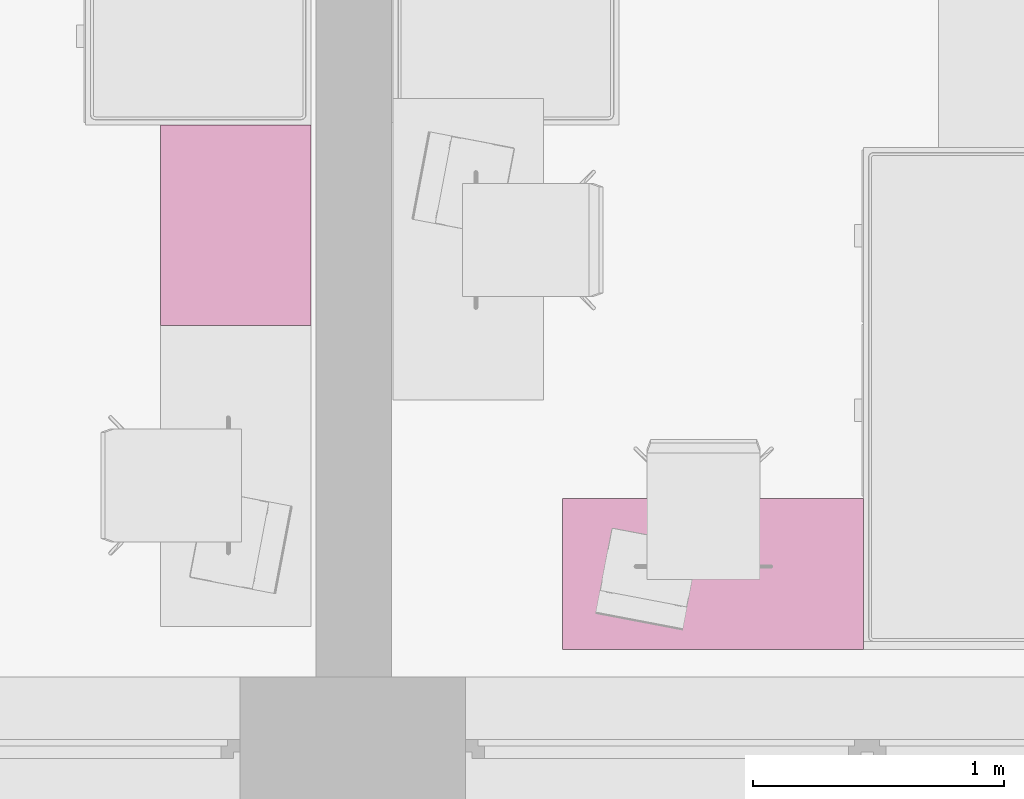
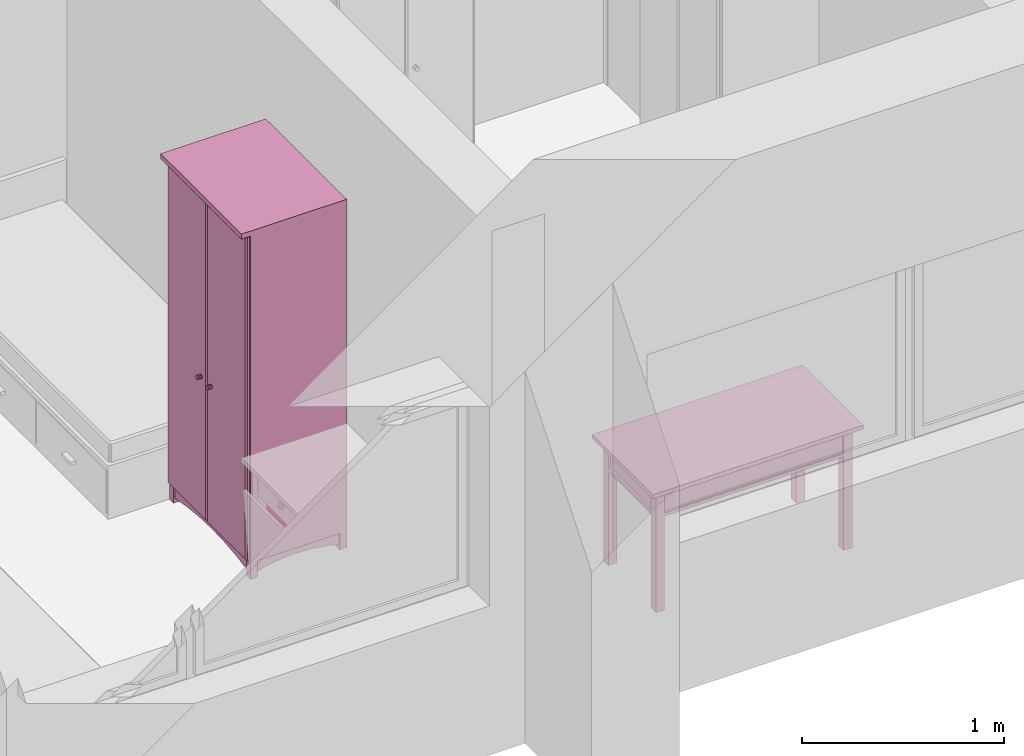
# One storey, part 127 of 172: 2 furnishings.
"""IFC2X3 building model written with IfcOpenShell, lengths in millimetres."""

import ifcopenshell
import ifcopenshell.guid

model = None  # the IFC model being written
_history = None  # IfcOwnerHistory: only IFC2X3 demands one
_inside = {}  # id of a spatial element -> (the spatial element, [elements in it])
_under = {}  # id of a project, library or spatial element -> (it, [spatial elements below it])
_declared = {}  # id of a project -> (the project, [libraries it declares])
_typed = {}  # id of a type object -> (the type object, [elements of that type])
_made_of = {}  # id of a material, layer set ... -> (it, [elements and type objects made of it])


def new_model(schema):
    """Start an empty IFC model of exactly this schema.

    Asked for "IFC4X3", IfcOpenShell would pick the latest addendum, in which some entities
    have other attributes; the version numbers below select the first issue.
    IFC2X3 requires an IfcOwnerHistory on every rooted entity: one is made here for all.
    """
    global model, _history
    if schema == "IFC4X3":
        model = ifcopenshell.file(schema_version=(4, 3, 0, 0))
    else:
        model = ifcopenshell.file(schema=schema)
    _inside.clear()
    _under.clear()
    _declared.clear()
    _typed.clear()
    _made_of.clear()
    _history = None
    if model.schema == "IFC2X3":
        org = make("IfcOrganization", Name="unknown")
        user = make(
            "IfcPersonAndOrganization",
            ThePerson=make("IfcPerson", FamilyName="unknown"),
            TheOrganization=org,
        )
        app = make(
            "IfcApplication",
            ApplicationDeveloper=org,
            Version="unknown",
            ApplicationFullName="unknown",
            ApplicationIdentifier="unknown",
        )
        _history = make(
            "IfcOwnerHistory",
            OwningUser=user,
            OwningApplication=app,
            ChangeAction="ADDED",
            CreationDate=0,
        )
    return model


def make(cls, **values):
    """One entity of the class cls with the attributes given. An attribute that is None is left unset."""
    return model.create_entity(
        cls, **{name: value for name, value in values.items() if value is not None}
    )


def entity(cls, *values):
    """Any entity or typed value of the class cls, its attributes in the order of the schema. None: left unset."""
    e = model.create_entity(cls)
    for i, value in enumerate(values):
        if value is not None:
            e[i] = value
    return e


def rooted(cls, **values):
    """An entity with a GlobalId (a new one), such as an element, a storey or a relation."""
    return make(cls, GlobalId=ifcopenshell.guid.new(), OwnerHistory=_history, **values)


def si_unit(unit_type, name, prefix=None):
    """IfcSIUnit, for example si_unit("LENGTHUNIT", "METRE", prefix="MILLI")."""
    return make("IfcSIUnit", UnitType=unit_type, Prefix=prefix, Name=name)


def converted_unit(unit_type, name, factor, base, dimensions=None, offset=None):
    """IfcConversionBasedUnit, such as the inch: factor (a typed value) times the base unit."""
    return make(
        "IfcConversionBasedUnit"
        if offset is None
        else "IfcConversionBasedUnitWithOffset",
        ConversionOffset=offset,
        Dimensions=None
        if dimensions is None
        else entity("IfcDimensionalExponents", *dimensions),
        UnitType=unit_type,
        Name=name,
        ConversionFactor=make(
            "IfcMeasureWithUnit", ValueComponent=factor, UnitComponent=base
        ),
    )


def money_unit(currency):
    """IfcMonetaryUnit."""
    return make("IfcMonetaryUnit", Currency=currency)


def assignment(units):
    """IfcUnitAssignment: the units of a project."""
    return None if units is None else make("IfcUnitAssignment", Units=units)


def point(xyz):
    """IfcCartesianPoint."""
    return None if xyz is None else make("IfcCartesianPoint", Coordinates=xyz)


def direction(xyz):
    """IfcDirection."""
    return None if xyz is None else make("IfcDirection", DirectionRatios=xyz)


def frame(location, z_axis=None, x_axis=None):
    """IfcAxis2Placement3D, a coordinate frame: its origin and axes. An axis left out is left unset."""
    return make(
        "IfcAxis2Placement3D",
        Location=point(location),
        Axis=direction(z_axis),
        RefDirection=direction(x_axis),
    )


def origin_with_axes():
    """The frame at (0, 0, 0) with the z axis (0, 0, 1) and the x axis (1, 0, 0) written out."""
    return frame((0.0, 0.0, 0.0), z_axis=(0.0, 0.0, 1.0), x_axis=(1.0, 0.0, 0.0))


def place(relative_to, where):
    """IfcLocalPlacement: puts the frame where relative to a parent placement (None: the world)."""
    return make(
        "IfcLocalPlacement", PlacementRelTo=relative_to, RelativePlacement=where
    )


def context(
    kind, dimensions, precision=None, world=None, true_north=None, identifier=None
):
    """IfcGeometricRepresentationContext, for example the 3D "Model" context."""
    return make(
        "IfcGeometricRepresentationContext",
        ContextIdentifier=identifier,
        ContextType=kind,
        CoordinateSpaceDimension=dimensions,
        Precision=precision,
        WorldCoordinateSystem=world,
        TrueNorth=true_north,
    )


def subcontext(parent, identifier, kind, view, scale=None):
    """IfcGeometricRepresentationSubContext, for example "Body" below "Model"."""
    return make(
        "IfcGeometricRepresentationSubContext",
        ContextIdentifier=identifier,
        ContextType=kind,
        ParentContext=parent,
        TargetScale=scale,
        TargetView=view,
    )


def project(units=None, contexts=None):
    """IfcProject with its units and contexts."""
    return rooted(
        "IfcProject",
        Name="project",
        RepresentationContexts=contexts,
        UnitsInContext=assignment(units),
    )


def spatial(cls, under=None, at=None, **own):
    """A site, building, storey or space (cls), placed at a placement, below another one or the project."""
    s = rooted(cls, ObjectPlacement=at, **own)
    if under is not None:
        _under.setdefault(under.id(), (under, []))[1].append(s)
    return s


def faces_of(points, faces, orient=None, outer=None):
    """IfcFace entities. A face is a list of loops; a loop is a list of indices into points, from 0.

    orient and outer hold one flag for each loop. By default every Orientation is true, the
    first loop of a face is its IfcFaceOuterBound and the others are IfcFaceBound.
    """
    made = []
    for i, loops in enumerate(faces):
        bounds = []
        for j, loop in enumerate(loops):
            is_outer = j == 0 if outer is None else outer[i][j]
            bounds.append(
                make(
                    "IfcFaceOuterBound" if is_outer else "IfcFaceBound",
                    Bound=make("IfcPolyLoop", Polygon=[points[k] for k in loop]),
                    Orientation=True if orient is None else orient[i][j],
                )
            )
        made.append(make("IfcFace", Bounds=bounds))
    return made


def faceted_brep(points, faces, orient=None, outer=None, voids=None):
    """IfcFacetedBrep: a solid bounded by flat faces; with voids (closed shells), ...WithVoids."""
    shared = [point(p) for p in points]
    hull = make("IfcClosedShell", CfsFaces=faces_of(shared, faces, orient, outer))
    if voids is None:
        return make("IfcFacetedBrep", Outer=hull)
    return make(
        "IfcFacetedBrepWithVoids",
        Outer=hull,
        Voids=[
            make(cls, CfsFaces=faces_of(shared, fs, o, b)) for cls, fs, o, b in voids
        ],
    )


def shape(context_of_items, identifier, shape_type, items):
    """IfcShapeRepresentation: the items that make up one representation, for example the "Body"."""
    return make(
        "IfcShapeRepresentation",
        ContextOfItems=context_of_items,
        RepresentationIdentifier=identifier,
        RepresentationType=shape_type,
        Items=items,
    )


def source(mapping_origin, context_of_items, identifier, shape_type, items):
    """IfcRepresentationMap: a shape defined once, which mapped items show again and again."""
    return make(
        "IfcRepresentationMap",
        MappingOrigin=mapping_origin,
        MappedRepresentation=shape(context_of_items, identifier, shape_type, items),
    )


def transform(
    local_origin,
    x_axis=None,
    y_axis=None,
    z_axis=None,
    scale=None,
    scale2=None,
    scale3=None,
    uniform=True,
):
    """IfcCartesianTransformationOperator3D, or its non-uniform kind. x_axis, y_axis, z_axis: its Axis1, 2, 3."""
    if uniform:
        return make(
            "IfcCartesianTransformationOperator3D",
            Axis1=direction(x_axis),
            Axis2=direction(y_axis),
            LocalOrigin=point(local_origin),
            Scale=scale,
            Axis3=direction(z_axis),
        )
    return make(
        "IfcCartesianTransformationOperator3DnonUniform",
        Axis1=direction(x_axis),
        Axis2=direction(y_axis),
        LocalOrigin=point(local_origin),
        Scale=scale,
        Axis3=direction(z_axis),
        Scale2=scale2,
        Scale3=scale3,
    )


def mapped(mapping_source, mapping_target):
    """IfcMappedItem: shows the shape of a source again, moved by a transform."""
    return make(
        "IfcMappedItem", MappingSource=mapping_source, MappingTarget=mapping_target
    )


def material(Name=None, Category=None):
    """IfcMaterial."""
    return make("IfcMaterial", Name=Name, Category=Category)


def material_list(materials):
    """IfcMaterialList."""
    return make("IfcMaterialList", Materials=materials)


def made_of(thing, what):
    """Note that an element or type object is made of a material, layer set ...; save() writes the relation."""
    if what is not None:
        _made_of.setdefault(what.id(), (what, []))[1].append(thing)
    return thing


def type_object(cls, material=None, **own):
    """A type object (cls), such as IfcWallType, which elements share."""
    return made_of(rooted(cls, **own), material)


def element(
    cls,
    number,
    at=None,
    inside=None,
    cuts=None,
    type_object=None,
    material=None,
    context=None,
    identifier="Body",
    shape_type=None,
    held_by="IfcProductDefinitionShape",
    body=None,
    shapes=None,
    **own,
):
    """One element of the class cls, such as IfcWall. Its Tag is "e" and its number.

    at: its placement. inside: the storey or other place that contains it. cuts: it is an
    opening in that element (IfcRelVoidsElement). A single representation is given by context,
    identifier, shape_type and body (its items); several are given by shapes. held_by: the class
    of the entity that holds the representations. save() writes the other relations.
    """
    e = rooted(cls, Tag="e%d" % number, ObjectPlacement=at, **own)
    if body is not None:
        shapes = [shape(context, identifier, shape_type, body)]
    if shapes is not None:
        e.Representation = make(held_by, Representations=shapes)
    if inside is not None:
        _inside.setdefault(inside.id(), (inside, []))[1].append(e)
    if cuts is not None:
        rooted(
            "IfcRelVoidsElement", RelatingBuildingElement=cuts, RelatedOpeningElement=e
        )
    if type_object is not None:
        _typed.setdefault(type_object.id(), (type_object, []))[1].append(e)
    return made_of(e, material)


def aggregate(whole, parts):
    """IfcRelAggregates: a whole, such as a stair, and the parts it consists of."""
    return rooted("IfcRelAggregates", RelatingObject=whole, RelatedObjects=parts)


def save(model, path):
    """Write the relations noted so far, then the file.

    IfcRelAggregates (storeys below a building ...), IfcRelContainedInSpatialStructure (elements
    in a storey), IfcRelDefinesByType, IfcRelAssociatesMaterial and IfcRelDeclares: one each for
    every whole, place, type object, material and project.
    """
    for whole, parts in _under.values():
        aggregate(whole, parts)
    for where, things in _inside.values():
        rooted(
            "IfcRelContainedInSpatialStructure",
            RelatedElements=things,
            RelatingStructure=where,
        )
    for kind, things in _typed.values():
        rooted("IfcRelDefinesByType", RelatedObjects=things, RelatingType=kind)
    for what, things in _made_of.values():
        rooted("IfcRelAssociatesMaterial", RelatedObjects=things, RelatingMaterial=what)
    for by, libraries in _declared.values():
        rooted("IfcRelDeclares", RelatingContext=by, RelatedDefinitions=libraries)
    model.write(path)


model = new_model("IFC2X3")

# Units and contexts
model_context = context("Model", 3, precision=1e-05, world=origin_with_axes(), true_north=direction((0.0, 1.0)))
body_context = subcontext(model_context, "Body", "Model", "MODEL_VIEW")
ifc_project = project(units=[si_unit("LENGTHUNIT", "METRE", prefix="MILLI"), si_unit("AREAUNIT", "SQUARE_METRE"), si_unit("VOLUMEUNIT", "CUBIC_METRE"), converted_unit("PLANEANGLEUNIT", "DEGREE", entity("IfcPlaneAngleMeasure", 0.0174532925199), si_unit("PLANEANGLEUNIT", "RADIAN"), dimensions=[0, 0, 0, 0, 0, 0, 0]), si_unit("SOLIDANGLEUNIT", "STERADIAN"), money_unit("USD"), converted_unit("TIMEUNIT", "Year", entity("IfcTimeMeasure", 31556926.0), si_unit("TIMEUNIT", "SECOND"), dimensions=[0, 0, 0, 0, 0, 0, 0]), si_unit("MASSUNIT", "GRAM"), si_unit("THERMODYNAMICTEMPERATUREUNIT", "DEGREE_CELSIUS"), si_unit("LUMINOUSINTENSITYUNIT", "LUMEN")], contexts=[model_context])

# Site, building, storey
site_placement = place(None, origin_with_axes())
site = spatial("IfcSite", under=ifc_project, at=site_placement, Name="Site", CompositionType="ELEMENT")
building_placement = place(site_placement, origin_with_axes())
building = spatial("IfcBuilding", under=site, at=building_placement, Name="Building", CompositionType="ELEMENT")
storey_placement = place(building_placement, frame((0.0, 0.0, 3200.0), z_axis=(0.0, 0.0, 1.0), x_axis=(1.0, 0.0, 0.0)))
storey = spatial("IfcBuildingStorey", under=building, at=storey_placement, Name="3KORRUS", CompositionType="ELEMENT", Elevation=3200.0)

# Furnishings
ifc_material = material(Name="Background")
ifc_material_list = material_list([ifc_material])
furnishing_element_type_1 = type_object("IfcFurnishingElementType", Name="Cupboard 19")
shared_shape_1 = source(origin_with_axes(), body_context, "Body", "Brep", [
    faceted_brep([(-780.0, 600.0, 120.0), (-780.0, 580.0, 120.0), (-780.0, 580.0, 2050.0), (-780.0, 600.0, 2050.0), (-20.0, 600.0, 120.0), (-20.0, 580.0, 120.0), (-20.0, 580.0, 2050.0), (-20.0, 600.0, 2050.0)], [[[0, 1, 2, 3]], [[0, 4, 5, 1]], [[1, 5, 6, 2]], [[3, 2, 6, 7]], [[4, 0, 3, 7]], [[5, 4, 7, 6]]]),
    faceted_brep([(0.0, 50.0, 100.0), (-20.0, 50.0, 100.0), (-20.0, 600.0, 100.0), (0.0, 600.0, 100.0), (0.0, 50.0, 2070.0), (-20.0, 50.0, 2070.0), (-20.0, 600.0, 2070.0), (0.0, 600.0, 2070.0)], [[[0, 1, 2, 3]], [[1, 0, 4, 5]], [[2, 1, 5, 6]], [[3, 2, 6, 7]], [[0, 3, 7, 4]], [[5, 4, 7, 6]]]),
    faceted_brep([(-780.0, 50.0, 100.0), (-800.0, 50.0, 100.0), (-800.0, 600.0, 100.0), (-780.0, 600.0, 100.0), (-780.0, 50.0, 2070.0), (-800.0, 50.0, 2070.0), (-800.0, 600.0, 2070.0), (-780.0, 600.0, 2070.0)], [[[0, 1, 2, 3]], [[1, 0, 4, 5]], [[2, 1, 5, 6]], [[3, 2, 6, 7]], [[0, 3, 7, 4]], [[5, 4, 7, 6]]]),
    faceted_brep([(-20.0, 50.0, 100.0), (-780.0, 50.0, 100.0), (-780.0, 600.0, 100.0), (-20.0, 600.0, 100.0), (-20.0, 50.0, 120.0), (-780.0, 50.0, 120.0), (-780.0, 600.0, 120.0), (-20.0, 600.0, 120.0)], [[[0, 1, 2, 3]], [[1, 0, 4, 5]], [[2, 1, 5, 6]], [[3, 2, 6, 7]], [[0, 3, 7, 4]], [[5, 4, 7, 6]]]),
    faceted_brep([(-20.0, 50.0, 2050.0), (-780.0, 50.0, 2050.0), (-780.0, 600.0, 2050.0), (-20.0, 600.0, 2050.0), (-20.0, 50.0, 2070.0), (-780.0, 50.0, 2070.0), (-780.0, 600.0, 2070.0), (-20.0, 600.0, 2070.0)], [[[0, 1, 2, 3]], [[1, 0, 4, 5]], [[2, 1, 5, 6]], [[3, 2, 6, 7]], [[0, 3, 7, 4]], [[5, 4, 7, 6]]]),
    faceted_brep([(0.0, 600.0, 2070.0), (0.0, 600.0, 2100.0), (0.0, 0.0, 2100.0), (0.0, 0.0, 2070.0), (-800.0, 600.0, 2070.0), (-800.0, 600.0, 2100.0), (-800.0, 0.0, 2100.0), (-800.0, 0.0, 2070.0)], [[[0, 1, 2, 3]], [[4, 5, 1, 0]], [[1, 5, 6, 2]], [[3, 2, 6, 7]], [[0, 3, 7, 4]], [[7, 6, 5, 4]]]),
    faceted_brep([(-760.0, 590.0, 25.0), (-640.962, 590.0, 45.8), (-640.962, 570.0, 45.8), (-760.0, 570.0, 25.0), (-760.0, 590.0, 100.0), (-40.0, 590.0, 100.0), (-40.0, 590.0, 25.0), (-159.038, 590.0, 45.8), (-279.23, 590.0, 58.32), (-400.0, 590.0, 62.5), (-520.77, 590.0, 58.32), (-520.77, 570.0, 58.32), (-400.0, 570.0, 62.5), (-279.23, 570.0, 58.32), (-159.038, 570.0, 45.8), (-40.0, 570.0, 25.0), (-40.0, 570.0, 100.0), (-760.0, 570.0, 100.0)], [[[0, 1, 2, 3]], [[0, 4, 5, 6, 7, 8, 9, 10, 1]], [[1, 10, 11, 2]], [[3, 2, 11, 12, 13, 14, 15, 16, 17]], [[4, 0, 3, 17]], [[5, 4, 17, 16]], [[6, 5, 16, 15]], [[7, 6, 15, 14]], [[8, 7, 14, 13]], [[9, 8, 13, 12]], [[10, 9, 12, 11]]]),
    faceted_brep([(-760.0, 80.0, 25.0), (-640.962, 80.0, 45.8), (-640.962, 60.0, 45.8), (-760.0, 60.0, 25.0), (-760.0, 80.0, 100.0), (-40.0, 80.0, 100.0), (-40.0, 80.0, 25.0), (-159.038, 80.0, 45.8), (-279.23, 80.0, 58.32), (-400.0, 80.0, 62.5), (-520.77, 80.0, 58.32), (-520.77, 60.0, 58.32), (-400.0, 60.0, 62.5), (-279.23, 60.0, 58.32), (-159.038, 60.0, 45.8), (-40.0, 60.0, 25.0), (-40.0, 60.0, 100.0), (-760.0, 60.0, 100.0)], [[[0, 1, 2, 3]], [[0, 4, 5, 6, 7, 8, 9, 10, 1]], [[1, 10, 11, 2]], [[3, 2, 11, 12, 13, 14, 15, 16, 17]], [[4, 0, 3, 17]], [[5, 4, 17, 16]], [[6, 5, 16, 15]], [[7, 6, 15, 14]], [[8, 7, 14, 13]], [[9, 8, 13, 12]], [[10, 9, 12, 11]]]),
    faceted_brep([(-790.0, 90.0, 25.0), (-790.0, 141.266, 38.072), (-770.0, 141.266, 38.072), (-770.0, 90.0, 25.0), (-790.0, 90.0, 100.0), (-790.0, 560.0, 100.0), (-790.0, 560.0, 25.0), (-790.0, 508.734, 38.072), (-790.0, 456.752, 47.92), (-790.0, 404.257, 54.508), (-790.0, 351.453, 57.808), (-790.0, 298.547, 57.808), (-790.0, 245.743, 54.508), (-790.0, 193.248, 47.92), (-770.0, 193.248, 47.92), (-770.0, 245.743, 54.508), (-770.0, 298.547, 57.808), (-770.0, 351.453, 57.808), (-770.0, 404.257, 54.508), (-770.0, 456.752, 47.92), (-770.0, 508.734, 38.072), (-770.0, 560.0, 25.0), (-770.0, 560.0, 100.0), (-770.0, 90.0, 100.0)], [[[0, 1, 2, 3]], [[0, 4, 5, 6, 7, 8, 9, 10, 11, 12, 13, 1]], [[1, 13, 14, 2]], [[3, 2, 14, 15, 16, 17, 18, 19, 20, 21, 22, 23]], [[4, 0, 3, 23]], [[5, 4, 23, 22]], [[6, 5, 22, 21]], [[7, 6, 21, 20]], [[8, 7, 20, 19]], [[9, 8, 19, 18]], [[10, 9, 18, 17]], [[11, 10, 17, 16]], [[12, 11, 16, 15]], [[13, 12, 15, 14]]]),
    faceted_brep([(-30.0, 90.0, 25.0), (-30.0, 141.266, 38.072), (-10.0, 141.266, 38.072), (-10.0, 90.0, 25.0), (-30.0, 90.0, 100.0), (-30.0, 560.0, 100.0), (-30.0, 560.0, 25.0), (-30.0, 508.734, 38.072), (-30.0, 456.752, 47.92), (-30.0, 404.257, 54.508), (-30.0, 351.453, 57.808), (-30.0, 298.547, 57.808), (-30.0, 245.743, 54.508), (-30.0, 193.248, 47.92), (-10.0, 193.248, 47.92), (-10.0, 245.743, 54.508), (-10.0, 298.547, 57.808), (-10.0, 351.453, 57.808), (-10.0, 404.257, 54.508), (-10.0, 456.752, 47.92), (-10.0, 508.734, 38.072), (-10.0, 560.0, 25.0), (-10.0, 560.0, 100.0), (-10.0, 90.0, 100.0)], [[[0, 1, 2, 3]], [[0, 4, 5, 6, 7, 8, 9, 10, 11, 12, 13, 1]], [[1, 13, 14, 2]], [[3, 2, 14, 15, 16, 17, 18, 19, 20, 21, 22, 23]], [[4, 0, 3, 23]], [[5, 4, 23, 22]], [[6, 5, 22, 21]], [[7, 6, 21, 20]], [[8, 7, 20, 19]], [[9, 8, 19, 18]], [[10, 9, 18, 17]], [[11, 10, 17, 16]], [[12, 11, 16, 15]], [[13, 12, 15, 14]]]),
    faceted_brep([(-760.0, 560.0, 0.0), (-760.0, 600.0, 0.0), (-760.0, 600.0, 100.0), (-760.0, 560.0, 100.0), (-800.0, 560.0, 0.0), (-800.0, 600.0, 0.0), (-800.0, 600.0, 100.0), (-800.0, 560.0, 100.0)], [[[0, 1, 2, 3]], [[0, 4, 5, 1]], [[1, 5, 6, 2]], [[3, 2, 6, 7]], [[4, 0, 3, 7]], [[5, 4, 7, 6]]]),
    faceted_brep([(0.0, 560.0, 0.0), (0.0, 600.0, 0.0), (0.0, 600.0, 100.0), (0.0, 560.0, 100.0), (-40.0, 560.0, 0.0), (-40.0, 600.0, 0.0), (-40.0, 600.0, 100.0), (-40.0, 560.0, 100.0)], [[[0, 1, 2, 3]], [[0, 4, 5, 1]], [[1, 5, 6, 2]], [[3, 2, 6, 7]], [[4, 0, 3, 7]], [[5, 4, 7, 6]]]),
    faceted_brep([(-760.0, 50.0, 0.0), (-760.0, 90.0, 0.0), (-760.0, 90.0, 100.0), (-760.0, 50.0, 100.0), (-800.0, 50.0, 0.0), (-800.0, 90.0, 0.0), (-800.0, 90.0, 100.0), (-800.0, 50.0, 100.0)], [[[0, 1, 2, 3]], [[0, 4, 5, 1]], [[1, 5, 6, 2]], [[3, 2, 6, 7]], [[4, 0, 3, 7]], [[5, 4, 7, 6]]]),
    faceted_brep([(0.0, 50.0, 0.0), (0.0, 90.0, 0.0), (0.0, 90.0, 100.0), (0.0, 50.0, 100.0), (-40.0, 50.0, 0.0), (-40.0, 90.0, 0.0), (-40.0, 90.0, 100.0), (-40.0, 50.0, 100.0)], [[[0, 1, 2, 3]], [[0, 4, 5, 1]], [[1, 5, 6, 2]], [[3, 2, 6, 7]], [[4, 0, 3, 7]], [[5, 4, 7, 6]]]),
    faceted_brep([(-780.0, 580.0, 587.5), (-780.0, 50.0, 587.5), (-780.0, 50.0, 607.5), (-780.0, 580.0, 607.5), (-20.0, 580.0, 587.5), (-20.0, 50.0, 587.5), (-20.0, 50.0, 607.5), (-20.0, 580.0, 607.5)], [[[0, 1, 2, 3]], [[0, 4, 5, 1]], [[1, 5, 6, 2]], [[3, 2, 6, 7]], [[4, 0, 3, 7]], [[5, 4, 7, 6]]]),
    faceted_brep([(-780.0, 580.0, 1075.0), (-780.0, 50.0, 1075.0), (-780.0, 50.0, 1095.0), (-780.0, 580.0, 1095.0), (-20.0, 580.0, 1075.0), (-20.0, 50.0, 1075.0), (-20.0, 50.0, 1095.0), (-20.0, 580.0, 1095.0)], [[[0, 1, 2, 3]], [[0, 4, 5, 1]], [[1, 5, 6, 2]], [[3, 2, 6, 7]], [[4, 0, 3, 7]], [[5, 4, 7, 6]]]),
    faceted_brep([(-780.0, 580.0, 1562.5), (-780.0, 50.0, 1562.5), (-780.0, 50.0, 1582.5), (-780.0, 580.0, 1582.5), (-20.0, 580.0, 1562.5), (-20.0, 50.0, 1562.5), (-20.0, 50.0, 1582.5), (-20.0, 580.0, 1582.5)], [[[0, 1, 2, 3]], [[0, 4, 5, 1]], [[1, 5, 6, 2]], [[3, 2, 6, 7]], [[4, 0, 3, 7]], [[5, 4, 7, 6]]]),
    faceted_brep([(-789.5, 50.0, 110.5), (-789.5, 50.0, 2059.5), (-400.5, 50.0, 2059.5), (-400.5, 50.0, 110.5), (-789.5, 40.0, 110.5), (-789.5, 40.0, 2059.5), (-400.5, 40.0, 2059.5), (-400.5, 40.0, 110.5), (-779.5, 30.0, 120.5), (-779.5, 30.0, 2049.5), (-410.5, 30.0, 2049.5), (-410.5, 30.0, 120.5)], [[[0, 1, 2, 3]], [[1, 0, 4, 5]], [[2, 1, 5, 6]], [[3, 2, 6, 7]], [[0, 3, 7, 4]], [[5, 4, 8, 9]], [[6, 5, 9, 10]], [[7, 6, 10, 11]], [[4, 7, 11, 8]], [[10, 9, 8, 11]]]),
    faceted_brep([(-399.5, 50.0, 110.5), (-399.5, 50.0, 2059.5), (-10.5, 50.0, 2059.5), (-10.5, 50.0, 110.5), (-399.5, 40.0, 110.5), (-399.5, 40.0, 2059.5), (-10.5, 40.0, 2059.5), (-10.5, 40.0, 110.5), (-389.5, 30.0, 120.5), (-389.5, 30.0, 2049.5), (-20.5, 30.0, 2049.5), (-20.5, 30.0, 120.5)], [[[0, 1, 2, 3]], [[1, 0, 4, 5]], [[2, 1, 5, 6]], [[3, 2, 6, 7]], [[0, 3, 7, 4]], [[5, 4, 8, 9]], [[6, 5, 9, 10]], [[7, 6, 10, 11]], [[4, 7, 11, 8]], [[10, 9, 8, 11]]]),
    faceted_brep([(-339.608, 30.0, 954.0), (-344.0, 30.0, 949.608), (-350.0, 30.0, 948.0), (-356.0, 30.0, 949.608), (-360.392, 30.0, 954.0), (-362.0, 30.0, 960.0), (-360.392, 30.0, 966.0), (-356.0, 30.0, 970.392), (-350.0, 30.0, 972.0), (-344.0, 30.0, 970.392), (-339.608, 30.0, 966.0), (-338.0, 30.0, 960.0), (-339.608, 5.0, 954.0), (-344.0, 5.0, 949.608), (-350.0, 5.0, 948.0), (-356.0, 5.0, 949.608), (-360.392, 5.0, 954.0), (-362.0, 5.0, 960.0), (-360.392, 5.0, 966.0), (-356.0, 5.0, 970.392), (-350.0, 5.0, 972.0), (-344.0, 5.0, 970.392), (-339.608, 5.0, 966.0), (-338.0, 5.0, 960.0)], [[[0, 1, 2, 3, 4, 5, 6, 7, 8, 9, 10, 11]], [[1, 0, 12, 13]], [[2, 1, 13, 14]], [[3, 2, 14, 15]], [[4, 3, 15, 16]], [[5, 4, 16, 17]], [[6, 5, 17, 18]], [[7, 6, 18, 19]], [[8, 7, 19, 20]], [[9, 8, 20, 21]], [[10, 9, 21, 22]], [[11, 10, 22, 23]], [[0, 11, 23, 12]], [[12, 23, 22, 21, 20, 19, 18, 17, 16, 15, 14, 13]]]),
    faceted_brep([(-460.392, 30.0, 954.0), (-462.0, 30.0, 960.0), (-460.392, 30.0, 966.0), (-456.0, 30.0, 970.392), (-450.0, 30.0, 972.0), (-444.0, 30.0, 970.392), (-439.608, 30.0, 966.0), (-438.0, 30.0, 960.0), (-439.608, 30.0, 954.0), (-444.0, 30.0, 949.608), (-450.0, 30.0, 948.0), (-456.0, 30.0, 949.608), (-460.392, 5.0, 954.0), (-462.0, 5.0, 960.0), (-460.392, 5.0, 966.0), (-456.0, 5.0, 970.392), (-450.0, 5.0, 972.0), (-444.0, 5.0, 970.392), (-439.608, 5.0, 966.0), (-438.0, 5.0, 960.0), (-439.608, 5.0, 954.0), (-444.0, 5.0, 949.608), (-450.0, 5.0, 948.0), (-456.0, 5.0, 949.608)], [[[0, 1, 2, 3, 4, 5, 6, 7, 8, 9, 10, 11]], [[0, 12, 13, 1]], [[1, 13, 14, 2]], [[2, 14, 15, 3]], [[3, 15, 16, 4]], [[4, 16, 17, 5]], [[5, 17, 18, 6]], [[6, 18, 19, 7]], [[7, 19, 20, 8]], [[8, 20, 21, 9]], [[9, 21, 22, 10]], [[10, 22, 23, 11]], [[11, 23, 12, 0]], [[12, 23, 22, 21, 20, 19, 18, 17, 16, 15, 14, 13]]]),
])
furnishing_1_placement = place(storey_placement, frame((5089.70329669, -18239.2398994, 0.0), z_axis=(0.0, 0.0, 1.0), x_axis=(0.0, -1.0, 0.0)))
element("IfcFurnishingElement", 1, at=furnishing_1_placement, inside=storey, type_object=furnishing_element_type_1, material=ifc_material_list, Name="FU - 014", context=body_context, shape_type="MappedRepresentation", body=[
    mapped(shared_shape_1, transform((0.0, 0.0, 0.0))),
])
furnishing_element_type_2 = type_object("IfcFurnishingElementType", Name="Rectangular Table 01 19")
shared_shape_2 = source(origin_with_axes(), body_context, "Body", "Brep", [
    faceted_brep([(-90.0, 40.0, 0.0), (-90.0, 90.0, 0.0), (-40.0, 90.0, 0.0), (-40.0, 40.0, 0.0), (-90.0, 40.0, 725.0), (-90.0, 90.0, 725.0), (-40.0, 90.0, 725.0), (-40.0, 40.0, 725.0)], [[[0, 1, 2, 3]], [[0, 4, 5, 1]], [[1, 5, 6, 2]], [[2, 6, 7, 3]], [[3, 7, 4, 0]], [[7, 6, 5, 4]]]),
    faceted_brep([(-1160.0, 40.0, 0.0), (-1160.0, 90.0, 0.0), (-1110.0, 90.0, 0.0), (-1110.0, 40.0, 0.0), (-1160.0, 40.0, 725.0), (-1160.0, 90.0, 725.0), (-1110.0, 90.0, 725.0), (-1110.0, 40.0, 725.0)], [[[0, 1, 2, 3]], [[0, 4, 5, 1]], [[1, 5, 6, 2]], [[2, 6, 7, 3]], [[3, 7, 4, 0]], [[7, 6, 5, 4]]]),
    faceted_brep([(-90.0, 510.0, 0.0), (-90.0, 560.0, 0.0), (-40.0, 560.0, 0.0), (-40.0, 510.0, 0.0), (-90.0, 510.0, 725.0), (-90.0, 560.0, 725.0), (-40.0, 560.0, 725.0), (-40.0, 510.0, 725.0)], [[[0, 1, 2, 3]], [[0, 4, 5, 1]], [[1, 5, 6, 2]], [[2, 6, 7, 3]], [[3, 7, 4, 0]], [[7, 6, 5, 4]]]),
    faceted_brep([(-1160.0, 510.0, 0.0), (-1160.0, 560.0, 0.0), (-1110.0, 560.0, 0.0), (-1110.0, 510.0, 0.0), (-1160.0, 510.0, 725.0), (-1160.0, 560.0, 725.0), (-1110.0, 560.0, 725.0), (-1110.0, 510.0, 725.0)], [[[0, 1, 2, 3]], [[0, 4, 5, 1]], [[1, 5, 6, 2]], [[2, 6, 7, 3]], [[3, 7, 4, 0]], [[7, 6, 5, 4]]]),
    faceted_brep([(-1160.0, 40.0, 565.0), (-1160.0, 560.0, 565.0), (-40.0, 560.0, 565.0), (-40.0, 40.0, 565.0), (-1160.0, 40.0, 585.0), (-1160.0, 560.0, 585.0), (-40.0, 560.0, 585.0), (-40.0, 40.0, 585.0)], [[[0, 1, 2, 3]], [[0, 4, 5, 1]], [[1, 5, 6, 2]], [[2, 6, 7, 3]], [[3, 7, 4, 0]], [[7, 6, 5, 4]]]),
    faceted_brep([(-1110.0, 52.5, 585.0), (-1110.0, 77.5, 585.0), (-90.0, 77.5, 585.0), (-90.0, 52.5, 585.0), (-1110.0, 52.5, 745.0), (-1110.0, 77.5, 745.0), (-90.0, 77.5, 745.0), (-90.0, 52.5, 745.0)], [[[0, 1, 2, 3]], [[0, 4, 5, 1]], [[1, 5, 6, 2]], [[2, 6, 7, 3]], [[3, 7, 4, 0]], [[7, 6, 5, 4]]]),
    faceted_brep([(-77.5, 90.0, 585.0), (-77.5, 510.0, 585.0), (-52.5, 510.0, 585.0), (-52.5, 90.0, 585.0), (-77.5, 90.0, 745.0), (-77.5, 510.0, 745.0), (-52.5, 510.0, 745.0), (-52.5, 90.0, 745.0)], [[[0, 1, 2, 3]], [[0, 4, 5, 1]], [[1, 5, 6, 2]], [[2, 6, 7, 3]], [[3, 7, 4, 0]], [[7, 6, 5, 4]]]),
    faceted_brep([(-90.0, 547.5, 585.0), (-90.0, 522.5, 585.0), (-1110.0, 522.5, 585.0), (-1110.0, 547.5, 585.0), (-90.0, 547.5, 745.0), (-90.0, 522.5, 745.0), (-1110.0, 522.5, 745.0), (-1110.0, 547.5, 745.0)], [[[0, 1, 2, 3]], [[0, 4, 5, 1]], [[1, 5, 6, 2]], [[2, 6, 7, 3]], [[3, 7, 4, 0]], [[7, 6, 5, 4]]]),
    faceted_brep([(-1122.5, 510.0, 585.0), (-1122.5, 90.0, 585.0), (-1147.5, 90.0, 585.0), (-1147.5, 510.0, 585.0), (-1122.5, 510.0, 745.0), (-1122.5, 90.0, 745.0), (-1147.5, 90.0, 745.0), (-1147.5, 510.0, 745.0)], [[[0, 1, 2, 3]], [[0, 4, 5, 1]], [[1, 5, 6, 2]], [[2, 6, 7, 3]], [[3, 7, 4, 0]], [[7, 6, 5, 4]]]),
    faceted_brep([(-597.5, 40.0, 585.0), (-597.5, 60.0, 585.0), (-95.0, 60.0, 585.0), (-95.0, 40.0, 585.0), (-597.5, 40.0, 745.0), (-597.5, 60.0, 745.0), (-95.0, 60.0, 745.0), (-95.0, 40.0, 745.0)], [[[0, 1, 2, 3]], [[0, 4, 5, 1]], [[1, 5, 6, 2]], [[2, 6, 7, 3]], [[3, 7, 4, 0]], [[7, 6, 5, 4]]]),
    faceted_brep([(-1105.0, 40.0, 585.0), (-1105.0, 60.0, 585.0), (-602.5, 60.0, 585.0), (-602.5, 40.0, 585.0), (-1105.0, 40.0, 745.0), (-1105.0, 60.0, 745.0), (-602.5, 60.0, 745.0), (-602.5, 40.0, 745.0)], [[[0, 1, 2, 3]], [[0, 4, 5, 1]], [[1, 5, 6, 2]], [[2, 6, 7, 3]], [[3, 7, 4, 0]], [[7, 6, 5, 4]]]),
    faceted_brep([(-354.91, 40.0, 660.0), (-356.25, 40.0, 665.0), (-354.91, 40.0, 670.0), (-351.25, 40.0, 673.66), (-346.25, 40.0, 675.0), (-341.25, 40.0, 673.66), (-337.59, 40.0, 670.0), (-336.25, 40.0, 665.0), (-337.59, 40.0, 660.0), (-341.25, 40.0, 656.34), (-346.25, 40.0, 655.0), (-351.25, 40.0, 656.34), (-354.91, 25.0, 660.0), (-356.25, 25.0, 665.0), (-354.91, 25.0, 670.0), (-351.25, 25.0, 673.66), (-346.25, 25.0, 675.0), (-341.25, 25.0, 673.66), (-337.59, 25.0, 670.0), (-336.25, 25.0, 665.0), (-337.59, 25.0, 660.0), (-341.25, 25.0, 656.34), (-346.25, 25.0, 655.0), (-351.25, 25.0, 656.34)], [[[0, 1, 2, 3, 4, 5, 6, 7, 8, 9, 10, 11]], [[0, 12, 13, 1]], [[1, 13, 14, 2]], [[2, 14, 15, 3]], [[3, 15, 16, 4]], [[4, 16, 17, 5]], [[5, 17, 18, 6]], [[6, 18, 19, 7]], [[7, 19, 20, 8]], [[8, 20, 21, 9]], [[9, 21, 22, 10]], [[10, 22, 23, 11]], [[11, 23, 12, 0]], [[12, 23, 22, 21, 20, 19, 18, 17, 16, 15, 14, 13]]]),
    faceted_brep([(-356.25, 12.01, 665.0), (-354.91, 12.01, 660.0), (-346.25, 10.0, 665.0), (-363.571, 17.5, 665.0), (-361.25, 17.5, 656.34), (-351.25, 12.01, 656.34), (-354.91, 12.01, 670.0), (-366.25, 25.0, 665.0), (-363.571, 25.0, 655.0), (-354.91, 17.5, 650.0), (-361.25, 17.5, 673.66), (-346.25, 12.01, 655.0), (-351.25, 12.01, 673.66), (-363.571, 25.0, 675.0), (-356.25, 25.0, 682.321), (-346.25, 25.0, 685.0), (-336.25, 25.0, 682.321), (-328.929, 25.0, 675.0), (-326.25, 25.0, 665.0), (-328.929, 25.0, 655.0), (-336.25, 25.0, 647.679), (-346.25, 25.0, 645.0), (-356.25, 25.0, 647.679), (-346.25, 17.5, 647.679), (-354.91, 17.5, 680.0), (-341.25, 12.01, 656.34), (-346.25, 12.01, 675.0), (-346.25, 17.5, 682.321), (-337.59, 17.5, 680.0), (-331.25, 17.5, 673.66), (-328.929, 17.5, 665.0), (-331.25, 17.5, 656.34), (-337.59, 17.5, 650.0), (-337.59, 12.01, 660.0), (-341.25, 12.01, 673.66), (-337.59, 12.01, 670.0), (-336.25, 12.01, 665.0)], [[[0, 1, 2]], [[3, 4, 1, 0]], [[1, 5, 2]], [[6, 0, 2]], [[7, 8, 4, 3]], [[4, 9, 5, 1]], [[10, 3, 0, 6]], [[5, 11, 2]], [[12, 6, 2]], [[8, 7, 13, 14, 15, 16, 17, 18, 19, 20, 21, 22]], [[8, 22, 9, 4]], [[13, 7, 3, 10]], [[9, 23, 11, 5]], [[24, 10, 6, 12]], [[11, 25, 2]], [[26, 12, 2]], [[14, 13, 10, 24]], [[15, 14, 24, 27]], [[16, 15, 27, 28]], [[17, 16, 28, 29]], [[18, 17, 29, 30]], [[19, 18, 30, 31]], [[20, 19, 31, 32]], [[21, 20, 32, 23]], [[22, 21, 23, 9]], [[23, 32, 25, 11]], [[27, 24, 12, 26]], [[25, 33, 2]], [[34, 26, 2]], [[28, 27, 26, 34]], [[29, 28, 34, 35]], [[30, 29, 35, 36]], [[31, 30, 36, 33]], [[32, 31, 33, 25]], [[33, 36, 2]], [[35, 34, 2]], [[36, 35, 2]]]),
    faceted_brep([(-862.41, 40.0, 660.0), (-863.75, 40.0, 665.0), (-862.41, 40.0, 670.0), (-858.75, 40.0, 673.66), (-853.75, 40.0, 675.0), (-848.75, 40.0, 673.66), (-845.09, 40.0, 670.0), (-843.75, 40.0, 665.0), (-845.09, 40.0, 660.0), (-848.75, 40.0, 656.34), (-853.75, 40.0, 655.0), (-858.75, 40.0, 656.34), (-862.41, 25.0, 660.0), (-863.75, 25.0, 665.0), (-862.41, 25.0, 670.0), (-858.75, 25.0, 673.66), (-853.75, 25.0, 675.0), (-848.75, 25.0, 673.66), (-845.09, 25.0, 670.0), (-843.75, 25.0, 665.0), (-845.09, 25.0, 660.0), (-848.75, 25.0, 656.34), (-853.75, 25.0, 655.0), (-858.75, 25.0, 656.34)], [[[0, 1, 2, 3, 4, 5, 6, 7, 8, 9, 10, 11]], [[0, 12, 13, 1]], [[1, 13, 14, 2]], [[2, 14, 15, 3]], [[3, 15, 16, 4]], [[4, 16, 17, 5]], [[5, 17, 18, 6]], [[6, 18, 19, 7]], [[7, 19, 20, 8]], [[8, 20, 21, 9]], [[9, 21, 22, 10]], [[10, 22, 23, 11]], [[11, 23, 12, 0]], [[12, 23, 22, 21, 20, 19, 18, 17, 16, 15, 14, 13]]]),
    faceted_brep([(-863.75, 12.01, 665.0), (-862.41, 12.01, 660.0), (-853.75, 10.0, 665.0), (-871.071, 17.5, 665.0), (-868.75, 17.5, 656.34), (-858.75, 12.01, 656.34), (-862.41, 12.01, 670.0), (-873.75, 25.0, 665.0), (-871.071, 25.0, 655.0), (-862.41, 17.5, 650.0), (-868.75, 17.5, 673.66), (-853.75, 12.01, 655.0), (-858.75, 12.01, 673.66), (-871.071, 25.0, 675.0), (-863.75, 25.0, 682.321), (-853.75, 25.0, 685.0), (-843.75, 25.0, 682.321), (-836.429, 25.0, 675.0), (-833.75, 25.0, 665.0), (-836.429, 25.0, 655.0), (-843.75, 25.0, 647.679), (-853.75, 25.0, 645.0), (-863.75, 25.0, 647.679), (-853.75, 17.5, 647.679), (-862.41, 17.5, 680.0), (-848.75, 12.01, 656.34), (-853.75, 12.01, 675.0), (-853.75, 17.5, 682.321), (-845.09, 17.5, 680.0), (-838.75, 17.5, 673.66), (-836.429, 17.5, 665.0), (-838.75, 17.5, 656.34), (-845.09, 17.5, 650.0), (-845.09, 12.01, 660.0), (-848.75, 12.01, 673.66), (-845.09, 12.01, 670.0), (-843.75, 12.01, 665.0)], [[[0, 1, 2]], [[3, 4, 1, 0]], [[1, 5, 2]], [[6, 0, 2]], [[7, 8, 4, 3]], [[4, 9, 5, 1]], [[10, 3, 0, 6]], [[5, 11, 2]], [[12, 6, 2]], [[8, 7, 13, 14, 15, 16, 17, 18, 19, 20, 21, 22]], [[8, 22, 9, 4]], [[13, 7, 3, 10]], [[9, 23, 11, 5]], [[24, 10, 6, 12]], [[11, 25, 2]], [[26, 12, 2]], [[14, 13, 10, 24]], [[15, 14, 24, 27]], [[16, 15, 27, 28]], [[17, 16, 28, 29]], [[18, 17, 29, 30]], [[19, 18, 30, 31]], [[20, 19, 31, 32]], [[21, 20, 32, 23]], [[22, 21, 23, 9]], [[23, 32, 25, 11]], [[27, 24, 12, 26]], [[25, 33, 2]], [[34, 26, 2]], [[28, 27, 26, 34]], [[29, 28, 34, 35]], [[30, 29, 35, 36]], [[31, 30, 36, 33]], [[32, 31, 33, 25]], [[33, 36, 2]], [[35, 34, 2]], [[36, 35, 2]]]),
    faceted_brep([(-1200.0, 0.0, 725.0), (-1200.0, 600.0, 725.0), (0.0, 600.0, 725.0), (0.0, 0.0, 725.0), (-1200.0, 0.0, 750.0), (-1200.0, 600.0, 750.0), (0.0, 600.0, 750.0), (0.0, 0.0, 750.0)], [[[0, 1, 2, 3]], [[0, 4, 5, 1]], [[1, 5, 6, 2]], [[2, 6, 7, 3]], [[3, 7, 4, 0]], [[7, 6, 5, 4]]]),
])
furnishing_2_placement = place(storey_placement, frame((6690.99169205, -18929.2398994, 0.0), z_axis=(0.0, 0.0, 1.0), x_axis=(-1.0, 0.0, 0.0)))
element("IfcFurnishingElement", 2, at=furnishing_2_placement, inside=storey, type_object=furnishing_element_type_2, material=ifc_material_list, Name="FU - 011", context=body_context, shape_type="MappedRepresentation", body=[
    mapped(shared_shape_2, transform((0.0, 0.0, 0.0))),
])

save(model, "model.ifc")
